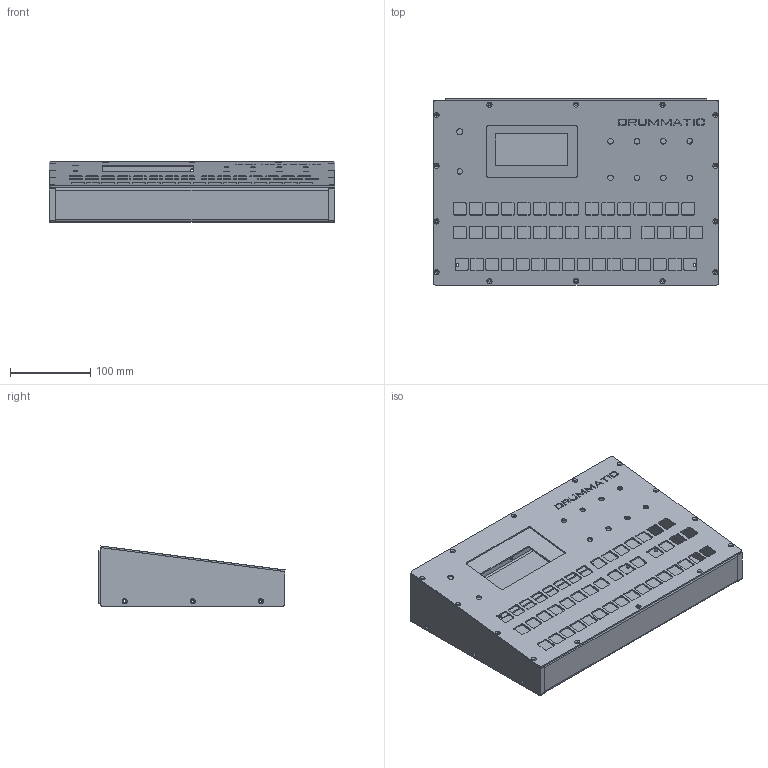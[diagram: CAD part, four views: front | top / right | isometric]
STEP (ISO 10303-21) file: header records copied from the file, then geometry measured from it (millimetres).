
FILE_DESCRIPTION(('Open CASCADE Model'),'2;1');
FILE_NAME('Open CASCADE Shape Model','2026-10-20T19:36:27',('Author'),( 'Open CASCADE'),'Open CASCADE STEP processor 7.9','Open CASCADE 7.9' ,'Unknown');
FILE_SCHEMA(('AUTOMOTIVE_DESIGN { 1 0 10303 214 1 1 1 1 }'));
Length unit declared in the file: millimetre
Products named in the file (7): c7139442-ccac-11f1-80dc-02fc00000001; pannello; fianco_sx; fianco_dx; vassoio; piastra_posteriore; staffa
Assembly tree (6 placements, depth 2):
  c7139442-ccac-11f1-80dc-02fc00000001
    pannello
    fianco_sx
    fianco_dx
    vassoio
    piastra_posteriore
    staffa
Bounding box: 356 x 232.26 x 74.98 mm (x, y, z)
Volume: 573688.4 mm3; surface area: 499675.9 mm2
Topology: 10 solids, 10 shells, 964 faces, 2715 edges, 1804 vertices
Faces by surface type: plane 603, cylinder 341, cone 20
Full cylindrical faces by diameter (mm): 2.2 x4, 2.5 x8, 3 x14, 3.4 x30, 4.2 x22, 7 x9, 7.5 x1, 9 x4, 24 x8, 33 x1
Entity records: 68655 total; most frequent: CARTESIAN_POINT 13524, DIRECTION 10416, LINE 6581, VECTOR 6581, ORIENTED_EDGE 5430, PCURVE 5430, DEFINITIONAL_REPRESENTATION 5430, EDGE_CURVE 2715
